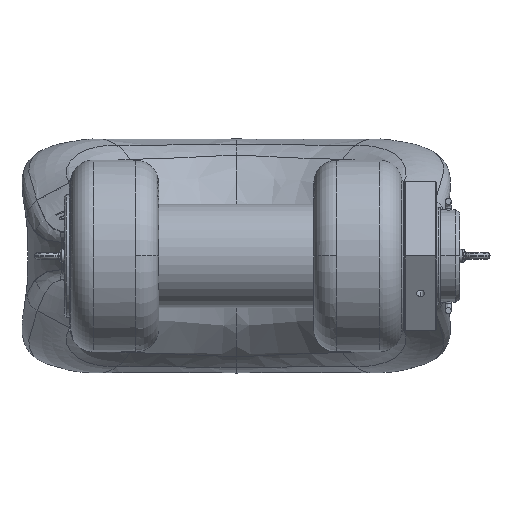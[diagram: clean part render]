
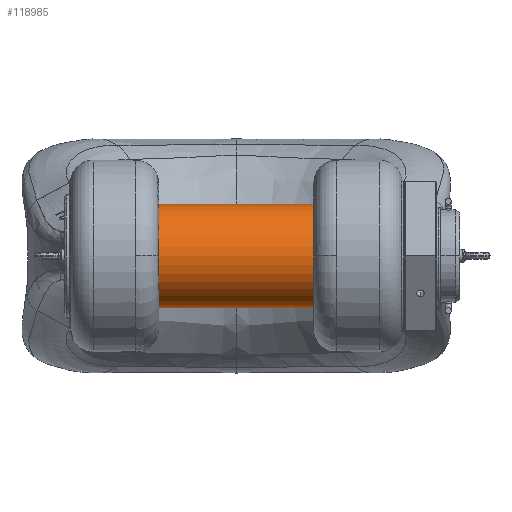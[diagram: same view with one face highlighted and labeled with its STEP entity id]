
A CAD part, front view. The second image highlights one B-rep face of the part: STEP entity #118985.
In plain terms, the highlighted cylindrical face has radius 135 mm (diameter 270 mm), a partial arc.
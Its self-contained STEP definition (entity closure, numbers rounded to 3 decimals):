
#112567=DIRECTION('',(0.,0.,-1.));
#112568=VECTOR('',#112567,830.);
#112569=CARTESIAN_POINT('',(135.,0.,-7.));
#112570=LINE('',#112569,#112568);
#112590=CARTESIAN_POINT('',(0.,0.,-837.));
#112591=DIRECTION('',(0.,0.,-1.));
#112592=DIRECTION('',(1.,0.,0.));
#112593=AXIS2_PLACEMENT_3D('',#112590,#112591,#112592);
#112598=DIRECTION('',(0.,0.,-1.));
#112599=VECTOR('',#112598,830.);
#112600=CARTESIAN_POINT('',(-135.,0.,-7.));
#112601=LINE('',#112600,#112599);
#112605=CARTESIAN_POINT('',(0.,0.,-7.));
#112606=DIRECTION('',(0.,0.,1.));
#112607=DIRECTION('',(-1.,0.,0.));
#112608=AXIS2_PLACEMENT_3D('',#112605,#112606,#112607);
#117947=CARTESIAN_POINT('',(135.,0.,-7.));
#117949=VERTEX_POINT('',#117947);
#117955=CARTESIAN_POINT('',(-135.,0.,-7.));
#117956=VERTEX_POINT('',#117955);
#117966=CARTESIAN_POINT('',(135.,0.,-837.));
#117967=CARTESIAN_POINT('',(-135.,0.,-837.));
#117968=VERTEX_POINT('',#117966);
#117969=VERTEX_POINT('',#117967);
#118973=CARTESIAN_POINT('',(0.,0.,0.));
#118974=DIRECTION('',(0.,0.,1.));
#118975=DIRECTION('',(1.,0.,0.));
#118976=AXIS2_PLACEMENT_3D('',#118973,#118974,#118975);
#118977=CYLINDRICAL_SURFACE('',#118976,135.);
#118978=ORIENTED_EDGE('',*,*,#118915,.T.);
#118979=ORIENTED_EDGE('',*,*,#118961,.F.);
#118981=ORIENTED_EDGE('',*,*,#118980,.T.);
#118982=ORIENTED_EDGE('',*,*,#118955,.T.);
#118983=EDGE_LOOP('',(#118978,#118979,#118981,#118982));
#118984=FACE_OUTER_BOUND('',#118983,.F.);
#118985=ADVANCED_FACE('',(#118984),#118977,.T.);
#112594=CIRCLE('',#112593,135.);
#112609=CIRCLE('',#112608,135.);
#118915=EDGE_CURVE('',#117968,#117969,#112594,.T.);
#118955=EDGE_CURVE('',#117949,#117968,#112570,.T.);
#118961=EDGE_CURVE('',#117956,#117969,#112601,.T.);
#118980=EDGE_CURVE('',#117956,#117949,#112609,.T.);
